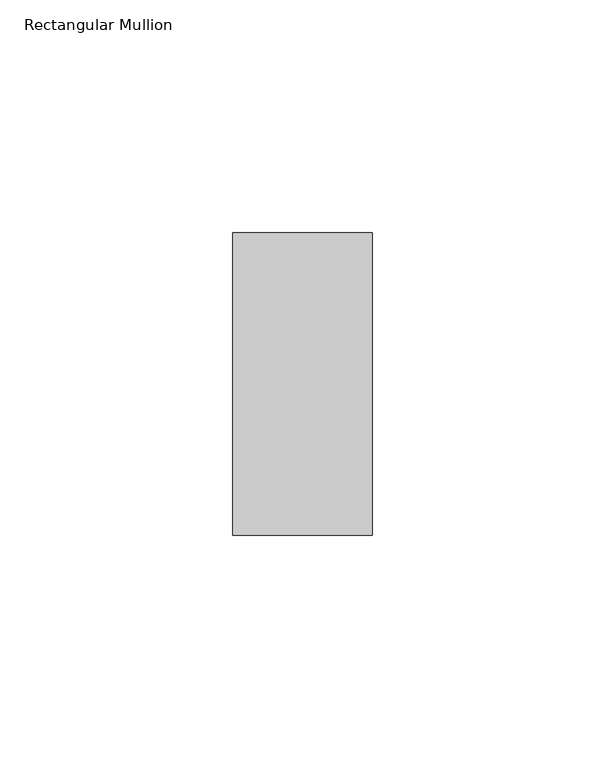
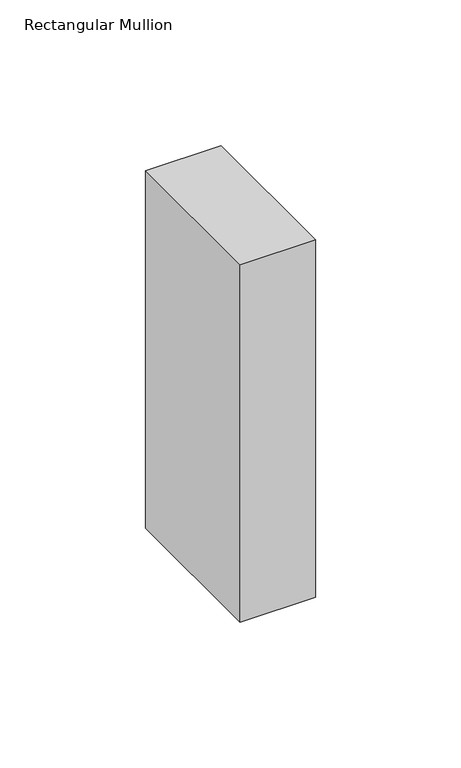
"""IFC4 building model written with IfcOpenShell, lengths in millimetres: member geometry, Rectangular Mullion : Batten_Timber_Modinex_Austratus_Grid_Fascia_30x65_AlaskanYellowCedar."""

import ifcopenshell
import ifcopenshell.guid

model = None  # the IFC model being written
_history = None  # IfcOwnerHistory: only IFC2X3 demands one
_inside = {}  # id of a spatial element -> (the spatial element, [elements in it])
_under = {}  # id of a project, library or spatial element -> (it, [spatial elements below it])
_declared = {}  # id of a project -> (the project, [libraries it declares])
_typed = {}  # id of a type object -> (the type object, [elements of that type])
_made_of = {}  # id of a material, layer set ... -> (it, [elements and type objects made of it])


def new_model(schema):
    """Start an empty IFC model of exactly this schema.

    Asked for "IFC4X3", IfcOpenShell would pick the latest addendum, in which some entities
    have other attributes; the version numbers below select the first issue.
    IFC2X3 requires an IfcOwnerHistory on every rooted entity: one is made here for all.
    """
    global model, _history
    if schema == "IFC4X3":
        model = ifcopenshell.file(schema_version=(4, 3, 0, 0))
    else:
        model = ifcopenshell.file(schema=schema)
    _inside.clear()
    _under.clear()
    _declared.clear()
    _typed.clear()
    _made_of.clear()
    _history = None
    if model.schema == "IFC2X3":
        org = make("IfcOrganization", Name="unknown")
        user = make(
            "IfcPersonAndOrganization",
            ThePerson=make("IfcPerson", FamilyName="unknown"),
            TheOrganization=org,
        )
        app = make(
            "IfcApplication",
            ApplicationDeveloper=org,
            Version="unknown",
            ApplicationFullName="unknown",
            ApplicationIdentifier="unknown",
        )
        _history = make(
            "IfcOwnerHistory",
            OwningUser=user,
            OwningApplication=app,
            ChangeAction="ADDED",
            CreationDate=0,
        )
    return model


def make(cls, **values):
    """One entity of the class cls with the attributes given. An attribute that is None is left unset."""
    return model.create_entity(
        cls, **{name: value for name, value in values.items() if value is not None}
    )


def rooted(cls, **values):
    """An entity with a GlobalId (a new one), such as an element, a storey or a relation."""
    return make(cls, GlobalId=ifcopenshell.guid.new(), OwnerHistory=_history, **values)


def si_unit(unit_type, name, prefix=None):
    """IfcSIUnit, for example si_unit("LENGTHUNIT", "METRE", prefix="MILLI")."""
    return make("IfcSIUnit", UnitType=unit_type, Prefix=prefix, Name=name)


def assignment(units):
    """IfcUnitAssignment: the units of a project."""
    return None if units is None else make("IfcUnitAssignment", Units=units)


def point(xyz):
    """IfcCartesianPoint."""
    return None if xyz is None else make("IfcCartesianPoint", Coordinates=xyz)


def direction(xyz):
    """IfcDirection."""
    return None if xyz is None else make("IfcDirection", DirectionRatios=xyz)


def frame(location, z_axis=None, x_axis=None):
    """IfcAxis2Placement3D, a coordinate frame: its origin and axes. An axis left out is left unset."""
    return make(
        "IfcAxis2Placement3D",
        Location=point(location),
        Axis=direction(z_axis),
        RefDirection=direction(x_axis),
    )


def origin():
    """The frame at (0, 0, 0) with its axes left unset."""
    return frame((0.0, 0.0, 0.0))


def place(relative_to, where):
    """IfcLocalPlacement: puts the frame where relative to a parent placement (None: the world)."""
    return make(
        "IfcLocalPlacement", PlacementRelTo=relative_to, RelativePlacement=where
    )


def context(
    kind, dimensions, precision=None, world=None, true_north=None, identifier=None
):
    """IfcGeometricRepresentationContext, for example the 3D "Model" context."""
    return make(
        "IfcGeometricRepresentationContext",
        ContextIdentifier=identifier,
        ContextType=kind,
        CoordinateSpaceDimension=dimensions,
        Precision=precision,
        WorldCoordinateSystem=world,
        TrueNorth=true_north,
    )


def project(units=None, contexts=None):
    """IfcProject with its units and contexts."""
    return rooted(
        "IfcProject",
        Name="project",
        RepresentationContexts=contexts,
        UnitsInContext=assignment(units),
    )


def spatial(cls, under=None, at=None, **own):
    """A site, building, storey or space (cls), placed at a placement, below another one or the project."""
    s = rooted(cls, ObjectPlacement=at, **own)
    if under is not None:
        _under.setdefault(under.id(), (under, []))[1].append(s)
    return s


def polyline(points):
    """IfcPolyline through the points."""
    return make("IfcPolyline", Points=[point(p) for p in points])


def outline(outer, holes=None, kind="AREA"):
    """IfcArbitraryClosedProfileDef: a profile drawn as a closed curve; with holes, ...WithVoids."""
    if holes is None:
        return make("IfcArbitraryClosedProfileDef", ProfileType=kind, OuterCurve=outer)
    return make(
        "IfcArbitraryProfileDefWithVoids",
        ProfileType=kind,
        OuterCurve=outer,
        InnerCurves=holes,
    )


def extrude(swept, where, along, depth):
    """IfcExtrudedAreaSolid: the profile swept, set in the frame where, extruded along a direction by depth."""
    return make(
        "IfcExtrudedAreaSolid",
        SweptArea=swept,
        Position=where,
        ExtrudedDirection=direction(along),
        Depth=depth,
    )


def shape(context_of_items, identifier, shape_type, items):
    """IfcShapeRepresentation: the items that make up one representation, for example the "Body"."""
    return make(
        "IfcShapeRepresentation",
        ContextOfItems=context_of_items,
        RepresentationIdentifier=identifier,
        RepresentationType=shape_type,
        Items=items,
    )


def source(mapping_origin, context_of_items, identifier, shape_type, items):
    """IfcRepresentationMap: a shape defined once, which mapped items show again and again."""
    return make(
        "IfcRepresentationMap",
        MappingOrigin=mapping_origin,
        MappedRepresentation=shape(context_of_items, identifier, shape_type, items),
    )


def transform(
    local_origin,
    x_axis=None,
    y_axis=None,
    z_axis=None,
    scale=None,
    scale2=None,
    scale3=None,
    uniform=True,
):
    """IfcCartesianTransformationOperator3D, or its non-uniform kind. x_axis, y_axis, z_axis: its Axis1, 2, 3."""
    if uniform:
        return make(
            "IfcCartesianTransformationOperator3D",
            Axis1=direction(x_axis),
            Axis2=direction(y_axis),
            LocalOrigin=point(local_origin),
            Scale=scale,
            Axis3=direction(z_axis),
        )
    return make(
        "IfcCartesianTransformationOperator3DnonUniform",
        Axis1=direction(x_axis),
        Axis2=direction(y_axis),
        LocalOrigin=point(local_origin),
        Scale=scale,
        Axis3=direction(z_axis),
        Scale2=scale2,
        Scale3=scale3,
    )


def mapped(mapping_source, mapping_target):
    """IfcMappedItem: shows the shape of a source again, moved by a transform."""
    return make(
        "IfcMappedItem", MappingSource=mapping_source, MappingTarget=mapping_target
    )


def made_of(thing, what):
    """Note that an element or type object is made of a material, layer set ...; save() writes the relation."""
    if what is not None:
        _made_of.setdefault(what.id(), (what, []))[1].append(thing)
    return thing


def element(
    cls,
    number,
    at=None,
    inside=None,
    cuts=None,
    type_object=None,
    material=None,
    context=None,
    identifier="Body",
    shape_type=None,
    held_by="IfcProductDefinitionShape",
    body=None,
    shapes=None,
    **own,
):
    """One element of the class cls, such as IfcWall. Its Tag is "e" and its number.

    at: its placement. inside: the storey or other place that contains it. cuts: it is an
    opening in that element (IfcRelVoidsElement). A single representation is given by context,
    identifier, shape_type and body (its items); several are given by shapes. held_by: the class
    of the entity that holds the representations. save() writes the other relations.
    """
    e = rooted(cls, Tag="e%d" % number, ObjectPlacement=at, **own)
    if body is not None:
        shapes = [shape(context, identifier, shape_type, body)]
    if shapes is not None:
        e.Representation = make(held_by, Representations=shapes)
    if inside is not None:
        _inside.setdefault(inside.id(), (inside, []))[1].append(e)
    if cuts is not None:
        rooted(
            "IfcRelVoidsElement", RelatingBuildingElement=cuts, RelatedOpeningElement=e
        )
    if type_object is not None:
        _typed.setdefault(type_object.id(), (type_object, []))[1].append(e)
    return made_of(e, material)


def aggregate(whole, parts):
    """IfcRelAggregates: a whole, such as a stair, and the parts it consists of."""
    return rooted("IfcRelAggregates", RelatingObject=whole, RelatedObjects=parts)


def save(model, path):
    """Write the relations noted so far, then the file.

    IfcRelAggregates (storeys below a building ...), IfcRelContainedInSpatialStructure (elements
    in a storey), IfcRelDefinesByType, IfcRelAssociatesMaterial and IfcRelDeclares: one each for
    every whole, place, type object, material and project.
    """
    for whole, parts in _under.values():
        aggregate(whole, parts)
    for where, things in _inside.values():
        rooted(
            "IfcRelContainedInSpatialStructure",
            RelatedElements=things,
            RelatingStructure=where,
        )
    for kind, things in _typed.values():
        rooted("IfcRelDefinesByType", RelatedObjects=things, RelatingType=kind)
    for what, things in _made_of.values():
        rooted("IfcRelAssociatesMaterial", RelatedObjects=things, RelatingMaterial=what)
    for by, libraries in _declared.values():
        rooted("IfcRelDeclares", RelatingContext=by, RelatedDefinitions=libraries)
    model.write(path)


def rectangular_mullion_a9727e9f(model_context):
    return source(origin(), model_context, "Body", "SweptSolid", [
        extrude(outline(polyline([(-30.0, 65.0), (0.0, 65.0), (0.0, 0.0), (-30.0, 0.0), (-30.0, 65.0)])), frame((0.0, 0.0, -150.0), z_axis=(0.0, 0.0, 1.0), x_axis=(1.0, 0.0, 0.0)), (0.0, 0.0, 1.0), 150.0),
    ])


if __name__ == "__main__":
    model = new_model("IFC4")
    model_context = context("Model", 3, world=origin())
    ifc_project = project(units=[si_unit("LENGTHUNIT", "METRE", prefix="MILLI")], contexts=[model_context])
    site = spatial("IfcSite", under=ifc_project)
    building = spatial("IfcBuilding", under=site)
    placement = place(None, origin())
    rectangular_mullion_shape = rectangular_mullion_a9727e9f(model_context)
    element("IfcMember", 1, ObjectType="Rectangular Mullion : Batten_Timber_Modinex_Austratus_Grid_Fascia_30x65_AlaskanYellowCedar", at=placement, inside=building, context=model_context, shape_type="MappedRepresentation", body=[
        mapped(rectangular_mullion_shape, transform((0.0, 0.0, 0.0), x_axis=(1.0, 0.0, 0.0), y_axis=(0.0, 1.0, 0.0), z_axis=(0.0, 0.0, 1.0))),
    ])
    save(model, "model.ifc")
